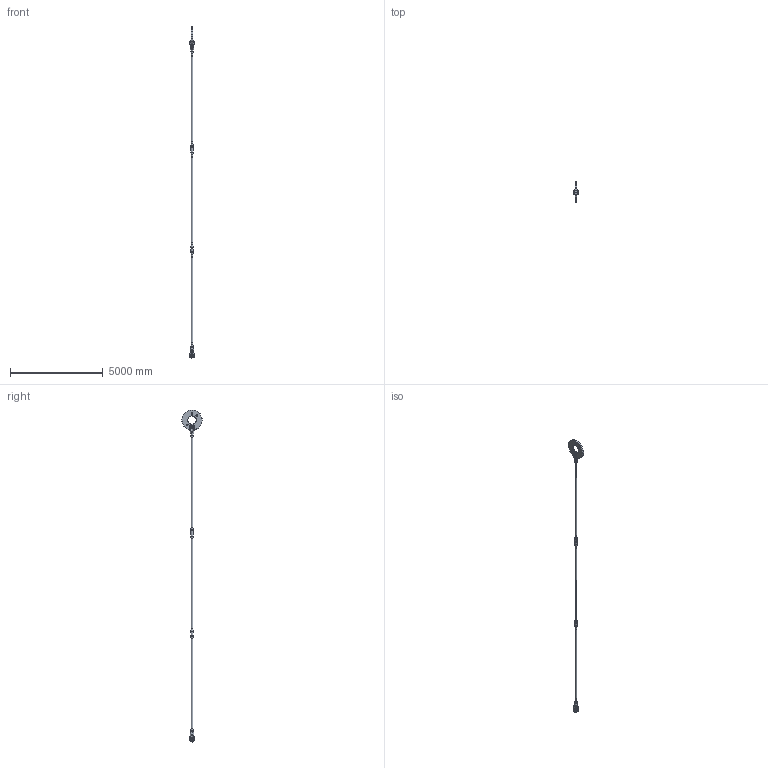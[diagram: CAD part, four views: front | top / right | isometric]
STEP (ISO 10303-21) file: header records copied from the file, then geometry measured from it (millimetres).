
FILE_DESCRIPTION(/* description */ (''),/* implementation_level */ '2;1');
FILE_NAME(/* name */ 'C:\Vault-WS\Anker\Werksnorm\Hochbau\ASDO-System\ASDO-S\System Komplett\Step\M 090.stp',/* time_stamp */ '2014-01-30T09:25:31+01:00',/* author */ ('ritgen'),/* organization */ (''),/* preprocessor_version */ 'ST-DEVELOPER v15.2',/* originating_system */ 'Autodesk Inventor 2014',/* authorisation */ '');
FILE_SCHEMA (('AUTOMOTIVE_DESIGN { 1 0 10303 214 3 1 1 }'));
Length unit declared in the file: millimetre
Products named in the file (11): ASDO-005770; ASDO-014275; ASDO-014326; DIN 7991 - M16x35 - 8.8; ASDO-013944; ASDO-001710; ASDO-001357; ASDO-001463; ASDO-006463; ASDO-014044; ASDO-006462
Bounding box: 227.54 x 1088.96 x 17916.86 mm (x, y, z)
Volume: 193627180.1 mm3; surface area: 9053712.1 mm2
Topology: 24 solids, 24 shells, 523 faces, 1124 edges, 682 vertices
Faces by surface type: plane 164, bspline 160, cylinder 89, cone 66, torus 44
Full cylindrical faces by diameter (mm): 9 x18, 13.835 x4, 16 x4, 18 x4, 30 x4, 83.505 x11, 90 x5, 92 x14, 94 x1, 94.5 x6, 125 x4, 129 x6, 139.7 x2, 450 x1, 1090 x1
Entity records: 14198 total; most frequent: CARTESIAN_POINT 9635, ORIENTED_EDGE 830, DIRECTION 818, EDGE_CURVE 415, AXIS2_PLACEMENT_3D 377, EDGE_LOOP 338, VERTEX_POINT 289, ADVANCED_FACE 229
